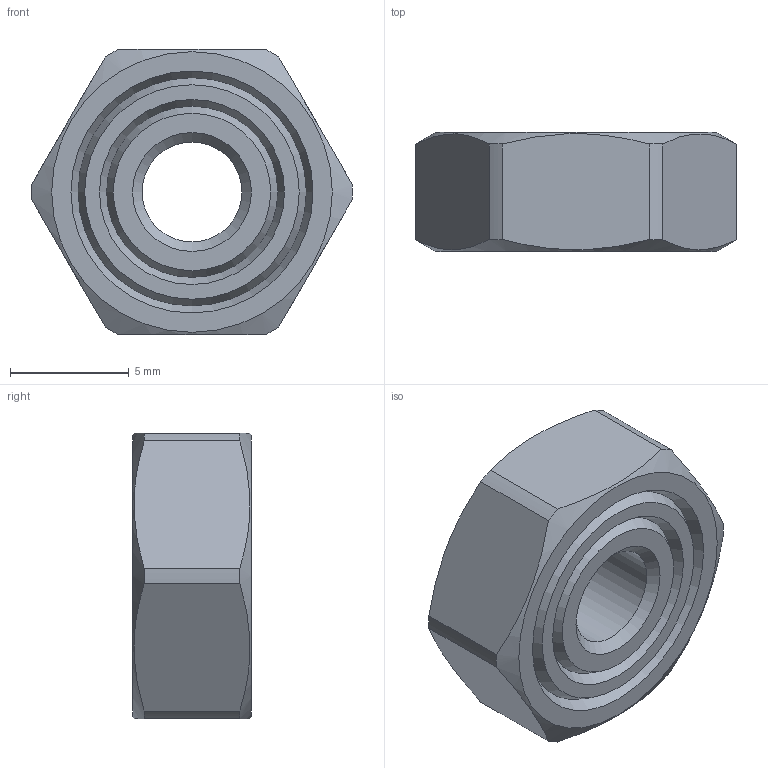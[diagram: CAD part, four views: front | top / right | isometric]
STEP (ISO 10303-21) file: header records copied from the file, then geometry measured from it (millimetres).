
FILE_DESCRIPTION(/* description */ ('Alibre Inc.'),/* implementation_level */ '2;1');
FILE_NAME(/* name */ 'export-A183F4ED-E933-4434-8E04-98FC846F4356',/* time_stamp */ '2024-02-15T11:37:06+01:00',/* author */ (''),/* organization */ (''),/* preprocessor_version */ 'ST-DEVELOPER v17',/* originating_system */ 'Alibre',/* authorisation */ '');
FILE_SCHEMA (('CONFIG_CONTROL_DESIGN'));
Length unit declared in the file: millimetre
Bounding box: 13.5 x 5 x 12 mm (x, y, z)
Volume: 537.8 mm3; surface area: 502.2 mm2
Topology: 1 solids, 1 shells, 25 faces, 59 edges, 38 vertices
Faces by surface type: plane 10, cone 8, cylinder 7
Full cylindrical faces by diameter (mm): 4.2 x1
Entity records: 696 total; most frequent: CARTESIAN_POINT 126, ORIENTED_EDGE 96, DIRECTION 88, EDGE_CURVE 48, AXIS2_PLACEMENT_3D 42, EDGE_LOOP 38, FACE_BOUND 38, VERTEX_POINT 36
